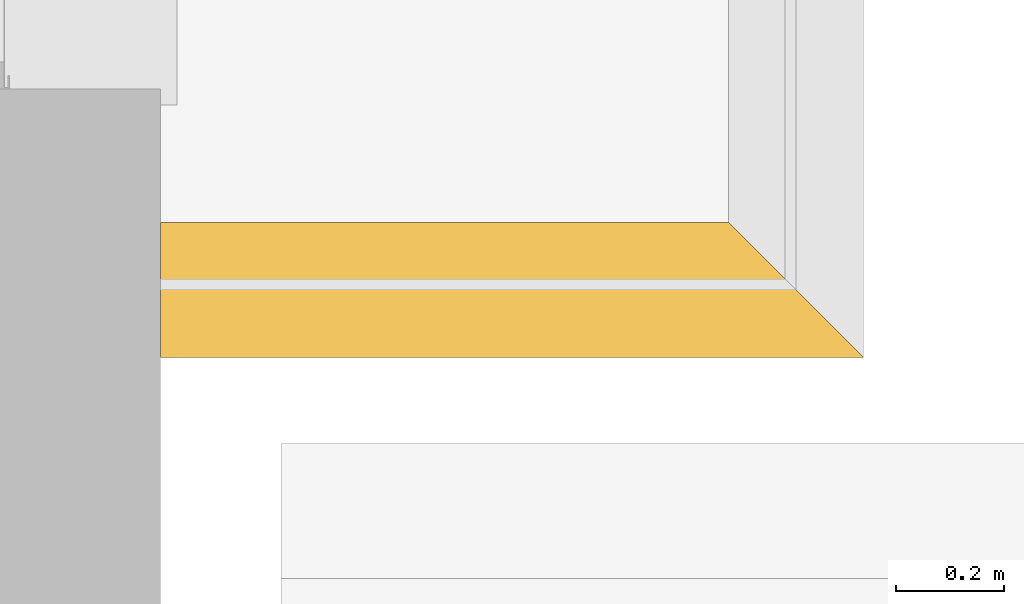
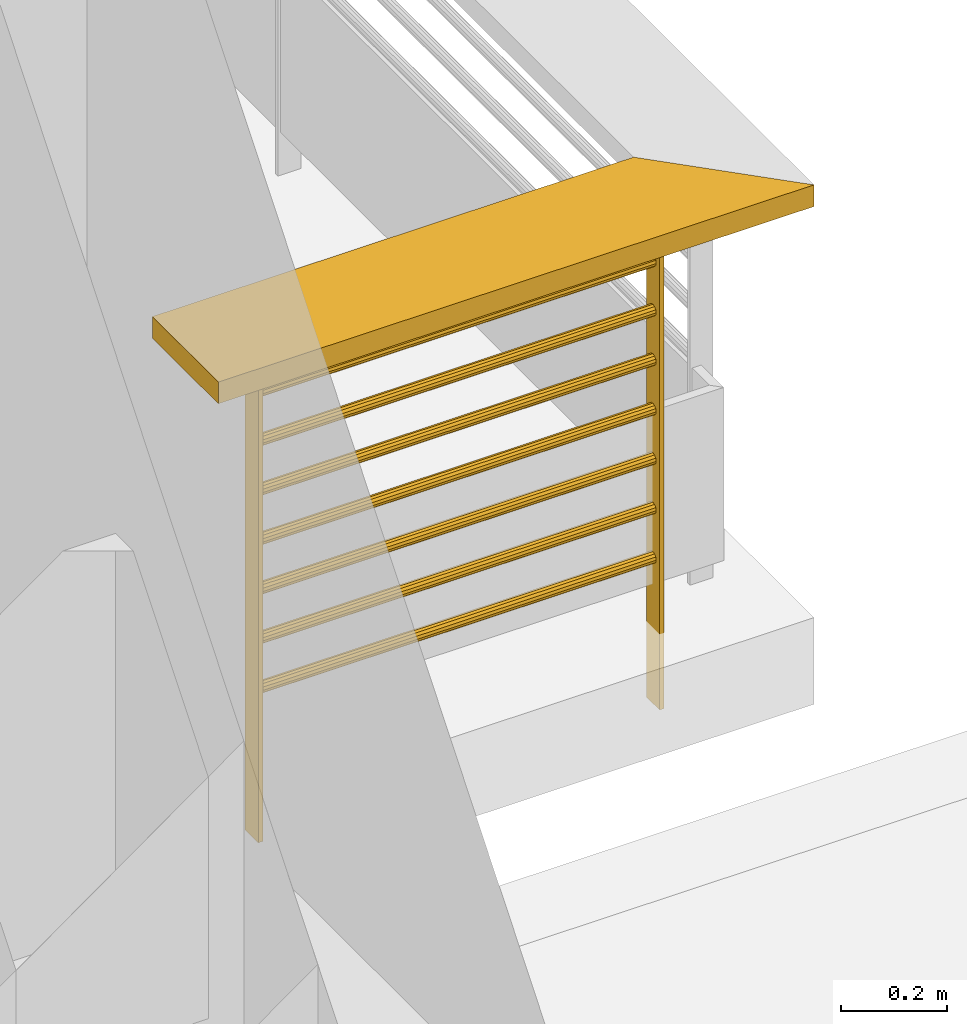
# One storey, part 95 of 164: 1 railing.
"""IFC2X3 building model written with IfcOpenShell, lengths in millimetres."""

from ifc_helpers import new_model, entity, si_unit, converted_unit, derived_unit, money_unit, direction, frame, origin_with_axes, place, context, subcontext, project, spatial, faceted_brep, source, transform, mapped, type_object, element, save


model = new_model("IFC2X3")

# Units and contexts
model_context = context("Model", 3, precision=0.01, world=origin_with_axes(), true_north=direction((0.0, 1.0)))
body_context = subcontext(model_context, "Body", "Model", "MODEL_VIEW")
ifc_project = project(units=[si_unit("LENGTHUNIT", "METRE", prefix="MILLI"), si_unit("AREAUNIT", "SQUARE_METRE"), si_unit("VOLUMEUNIT", "CUBIC_METRE"), converted_unit("PLANEANGLEUNIT", "DEGREE", entity("IfcPlaneAngleMeasure", 0.0174532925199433), si_unit("PLANEANGLEUNIT", "RADIAN"), dimensions=[0, 0, 0, 0, 0, 0, 0]), money_unit("USD"), converted_unit("TIMEUNIT", "Year", entity("IfcTimeMeasure", 31557600.0), si_unit("TIMEUNIT", "SECOND"), dimensions=[0, 0, 1, 0, 0, 0, 0]), si_unit("MASSUNIT", "GRAM", prefix="KILO"), si_unit("THERMODYNAMICTEMPERATUREUNIT", "DEGREE_CELSIUS"), si_unit("LUMINOUSINTENSITYUNIT", "LUMEN"), si_unit("ENERGYUNIT", "JOULE", prefix="MEGA"), derived_unit("THERMALCONDUCTANCEUNIT", [(si_unit("POWERUNIT", "WATT"), 1), (si_unit("LENGTHUNIT", "METRE"), -1), (si_unit("THERMODYNAMICTEMPERATUREUNIT", "KELVIN"), -1)]), derived_unit("SPECIFICHEATCAPACITYUNIT", [(si_unit("ENERGYUNIT", "JOULE"), 1), (si_unit("MASSUNIT", "GRAM", prefix="KILO"), -1), (si_unit("THERMODYNAMICTEMPERATUREUNIT", "KELVIN"), -1)]), derived_unit("MASSDENSITYUNIT", [(si_unit("MASSUNIT", "GRAM", prefix="KILO"), 1), (si_unit("VOLUMEUNIT", "CUBIC_METRE"), -1)])], contexts=[model_context])

# Site, building, storey
site_placement = place(None, origin_with_axes())
site = spatial("IfcSite", under=ifc_project, at=site_placement, Name="Site", CompositionType="ELEMENT")
building_placement = place(site_placement, origin_with_axes())
building = spatial("IfcBuilding", under=site, at=building_placement, Name="Bâtiment", CompositionType="ELEMENT")
storey_placement = place(building_placement, frame((0.0, 0.0, 5750.0), z_axis=(0.0, 0.0, 1.0), x_axis=(1.0, 0.0, 0.0)))
storey = spatial("IfcBuildingStorey", under=building, at=storey_placement, Name="Etage1", CompositionType="ELEMENT", Elevation=5750.0)

# Railing
railing_type = type_object("IfcRailingType", Name="Cadre avec câble 01 20", PredefinedType="NOTDEFINED")
shared_shape = source(origin_with_axes(), body_context, "Body", "Brep", [
    faceted_brep([(0.0, -125.0, 950.0), (0.0, 125.0, 950.0), (1051.913020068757, 125.0, 950.0), (1301.91302006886, -125.0, 950.0), (0.0, -125.0, 1000.0), (0.0, 125.0, 1000.0), (1051.913020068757, 125.0, 1000.0), (1301.91302006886, -125.0, 1000.0)], [[[0, 1, 2, 3]], [[1, 0, 4, 5]], [[2, 1, 5, 6]], [[2, 6, 7, 3]], [[0, 3, 7, 4]], [[5, 4, 7, 6]]]),
    faceted_brep([(145.0, -25.0, -176.0), (155.0, -25.0, -176.0), (155.0, -25.0, 950.0), (145.0, -25.0, 950.0), (145.0, 25.0, -176.0), (155.0, 25.0, -176.0), (155.0, 25.0, 950.0), (145.0, 25.0, 950.0)], [[[0, 1, 2, 3]], [[0, 4, 5, 1]], [[1, 5, 6, 2]], [[3, 2, 6, 7]], [[4, 0, 3, 7]], [[5, 4, 7, 6]]]),
    faceted_brep([(1021.913020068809, -25.0, -176.0), (1031.913020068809, -25.0, -176.0), (1031.913020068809, -25.0, 950.0), (1021.913020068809, -25.0, 950.0), (1021.913020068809, 25.0, -176.0), (1031.913020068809, 25.0, -176.0), (1031.913020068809, 25.0, 950.0), (1021.913020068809, 25.0, 950.0)], [[[0, 1, 2, 3]], [[0, 4, 5, 1]], [[1, 5, 6, 2]], [[3, 2, 6, 7]], [[4, 0, 3, 7]], [[5, 4, 7, 6]]]),
    faceted_brep([(155.0, 10.82531754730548, 156.25), (155.0, 12.5, 162.5), (1021.913020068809, 12.5, 162.5000000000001), (1021.913020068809, 10.82531754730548, 156.2500000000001), (155.0, 10.82531754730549, 168.75), (155.0, 6.249999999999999, 151.6746824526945), (155.0, 0.0, 150.0), (155.0, -6.250000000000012, 151.6746824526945), (155.0, -10.82531754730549, 156.25), (155.0, -12.5, 162.5), (155.0, -10.82531754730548, 168.75), (155.0, -6.249999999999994, 173.3253175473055), (155.0, 0.0, 175.0), (155.0, 6.250000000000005, 173.3253175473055), (1021.913020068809, 10.82531754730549, 168.7500000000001), (1021.913020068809, 6.250000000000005, 173.3253175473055), (1021.913020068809, 0.0, 175.0000000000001), (1021.913020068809, -6.249999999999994, 173.3253175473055), (1021.913020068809, -10.82531754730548, 168.7500000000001), (1021.913020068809, -12.5, 162.5000000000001), (1021.913020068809, -10.82531754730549, 156.2500000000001), (1021.913020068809, -6.250000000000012, 151.6746824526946), (1021.913020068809, 0.0, 150.0000000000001), (1021.913020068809, 6.249999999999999, 151.6746824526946)], [[[0, 1, 2, 3]], [[4, 1, 0, 5, 6, 7, 8, 9, 10, 11, 12, 13]], [[1, 4, 14, 2]], [[3, 2, 14, 15, 16, 17, 18, 19, 20, 21, 22, 23]], [[5, 0, 3, 23]], [[6, 5, 23, 22]], [[7, 6, 22, 21]], [[8, 7, 21, 20]], [[9, 8, 20, 19]], [[10, 9, 19, 18]], [[11, 10, 18, 17]], [[12, 11, 17, 16]], [[13, 12, 16, 15]], [[4, 13, 15, 14]]]),
    faceted_brep([(155.0, 10.82531754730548, 270.5357142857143), (155.0, 12.5, 276.7857142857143), (1021.913020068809, 12.5, 276.7857142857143), (1021.913020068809, 10.82531754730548, 270.5357142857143), (155.0, 10.82531754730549, 283.0357142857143), (155.0, 6.249999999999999, 265.9603967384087), (155.0, 0.0, 264.2857142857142), (155.0, -6.250000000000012, 265.9603967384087), (155.0, -10.82531754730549, 270.5357142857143), (155.0, -12.5, 276.7857142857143), (155.0, -10.82531754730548, 283.0357142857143), (155.0, -6.249999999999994, 287.6110318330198), (155.0, 0.0, 289.2857142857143), (155.0, 6.250000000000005, 287.6110318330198), (1021.913020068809, 10.82531754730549, 283.0357142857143), (1021.913020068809, 6.250000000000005, 287.6110318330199), (1021.913020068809, 0.0, 289.2857142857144), (1021.913020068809, -6.249999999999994, 287.6110318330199), (1021.913020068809, -10.82531754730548, 283.0357142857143), (1021.913020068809, -12.5, 276.7857142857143), (1021.913020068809, -10.82531754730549, 270.5357142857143), (1021.913020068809, -6.250000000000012, 265.9603967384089), (1021.913020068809, 0.0, 264.2857142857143), (1021.913020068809, 6.249999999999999, 265.9603967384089)], [[[0, 1, 2, 3]], [[4, 1, 0, 5, 6, 7, 8, 9, 10, 11, 12, 13]], [[1, 4, 14, 2]], [[3, 2, 14, 15, 16, 17, 18, 19, 20, 21, 22, 23]], [[5, 0, 3, 23]], [[6, 5, 23, 22]], [[7, 6, 22, 21]], [[8, 7, 21, 20]], [[9, 8, 20, 19]], [[10, 9, 19, 18]], [[11, 10, 18, 17]], [[12, 11, 17, 16]], [[13, 12, 16, 15]], [[4, 13, 15, 14]]]),
    faceted_brep([(155.0, 10.82531754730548, 384.8214285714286), (155.0, 12.5, 391.0714285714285), (1021.913020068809, 12.5, 391.0714285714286), (1021.913020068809, 10.82531754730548, 384.8214285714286), (155.0, 10.82531754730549, 397.3214285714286), (155.0, 6.249999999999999, 380.2461110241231), (155.0, 0.0, 378.5714285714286), (155.0, -6.250000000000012, 380.2461110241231), (155.0, -10.82531754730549, 384.8214285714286), (155.0, -12.5, 391.0714285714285), (155.0, -10.82531754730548, 397.3214285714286), (155.0, -6.249999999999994, 401.896746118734), (155.0, 0.0, 403.5714285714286), (155.0, 6.250000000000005, 401.896746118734), (1021.913020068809, 10.82531754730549, 397.3214285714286), (1021.913020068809, 6.250000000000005, 401.896746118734), (1021.913020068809, 0.0, 403.5714285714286), (1021.913020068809, -6.249999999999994, 401.896746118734), (1021.913020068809, -10.82531754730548, 397.3214285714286), (1021.913020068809, -12.5, 391.0714285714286), (1021.913020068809, -10.82531754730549, 384.8214285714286), (1021.913020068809, -6.250000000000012, 380.2461110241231), (1021.913020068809, 0.0, 378.5714285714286), (1021.913020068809, 6.249999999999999, 380.2461110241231)], [[[0, 1, 2, 3]], [[4, 1, 0, 5, 6, 7, 8, 9, 10, 11, 12, 13]], [[1, 4, 14, 2]], [[3, 2, 14, 15, 16, 17, 18, 19, 20, 21, 22, 23]], [[5, 0, 3, 23]], [[6, 5, 23, 22]], [[7, 6, 22, 21]], [[8, 7, 21, 20]], [[9, 8, 20, 19]], [[10, 9, 19, 18]], [[11, 10, 18, 17]], [[12, 11, 17, 16]], [[13, 12, 16, 15]], [[4, 13, 15, 14]]]),
    faceted_brep([(155.0, 10.82531754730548, 499.1071428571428), (155.0, 12.5, 505.3571428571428), (1021.913020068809, 12.5, 505.3571428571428), (1021.913020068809, 10.82531754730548, 499.1071428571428), (155.0, 10.82531754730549, 511.6071428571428), (155.0, 6.249999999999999, 494.5318253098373), (155.0, 0.0, 492.8571428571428), (155.0, -6.250000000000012, 494.5318253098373), (155.0, -10.82531754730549, 499.1071428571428), (155.0, -12.5, 505.3571428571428), (155.0, -10.82531754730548, 511.6071428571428), (155.0, -6.249999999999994, 516.1824604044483), (155.0, 0.0, 517.8571428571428), (155.0, 6.250000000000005, 516.1824604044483), (1021.913020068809, 10.82531754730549, 511.6071428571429), (1021.913020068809, 6.250000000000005, 516.1824604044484), (1021.913020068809, 0.0, 517.8571428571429), (1021.913020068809, -6.249999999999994, 516.1824604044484), (1021.913020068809, -10.82531754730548, 511.6071428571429), (1021.913020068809, -12.5, 505.3571428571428), (1021.913020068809, -10.82531754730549, 499.1071428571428), (1021.913020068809, -6.250000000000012, 494.5318253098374), (1021.913020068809, 0.0, 492.8571428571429), (1021.913020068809, 6.249999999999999, 494.5318253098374)], [[[0, 1, 2, 3]], [[4, 1, 0, 5, 6, 7, 8, 9, 10, 11, 12, 13]], [[1, 4, 14, 2]], [[3, 2, 14, 15, 16, 17, 18, 19, 20, 21, 22, 23]], [[5, 0, 3, 23]], [[6, 5, 23, 22]], [[7, 6, 22, 21]], [[8, 7, 21, 20]], [[9, 8, 20, 19]], [[10, 9, 19, 18]], [[11, 10, 18, 17]], [[12, 11, 17, 16]], [[13, 12, 16, 15]], [[4, 13, 15, 14]]]),
    faceted_brep([(155.0, 10.82531754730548, 613.3928571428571), (155.0, 12.5, 619.642857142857), (1021.913020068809, 12.5, 619.6428571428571), (1021.913020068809, 10.82531754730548, 613.3928571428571), (155.0, 10.82531754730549, 625.892857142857), (155.0, 6.249999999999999, 608.8175395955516), (155.0, 0.0, 607.1428571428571), (155.0, -6.250000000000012, 608.8175395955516), (155.0, -10.82531754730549, 613.3928571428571), (155.0, -12.5, 619.642857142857), (155.0, -10.82531754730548, 625.892857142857), (155.0, -6.249999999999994, 630.4681746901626), (155.0, 0.0, 632.1428571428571), (155.0, 6.250000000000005, 630.4681746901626), (1021.913020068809, 10.82531754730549, 625.8928571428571), (1021.913020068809, 6.250000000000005, 630.4681746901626), (1021.913020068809, 0.0, 632.1428571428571), (1021.913020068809, -6.249999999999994, 630.4681746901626), (1021.913020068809, -10.82531754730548, 625.8928571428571), (1021.913020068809, -12.5, 619.6428571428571), (1021.913020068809, -10.82531754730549, 613.3928571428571), (1021.913020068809, -6.250000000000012, 608.8175395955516), (1021.913020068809, 0.0, 607.1428571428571), (1021.913020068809, 6.249999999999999, 608.8175395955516)], [[[0, 1, 2, 3]], [[4, 1, 0, 5, 6, 7, 8, 9, 10, 11, 12, 13]], [[1, 4, 14, 2]], [[3, 2, 14, 15, 16, 17, 18, 19, 20, 21, 22, 23]], [[5, 0, 3, 23]], [[6, 5, 23, 22]], [[7, 6, 22, 21]], [[8, 7, 21, 20]], [[9, 8, 20, 19]], [[10, 9, 19, 18]], [[11, 10, 18, 17]], [[12, 11, 17, 16]], [[13, 12, 16, 15]], [[4, 13, 15, 14]]]),
    faceted_brep([(155.0, 10.82531754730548, 727.6785714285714), (155.0, 12.5, 733.9285714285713), (1021.913020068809, 12.5, 733.9285714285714), (1021.913020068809, 10.82531754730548, 727.6785714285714), (155.0, 10.82531754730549, 740.1785714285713), (155.0, 6.249999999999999, 723.1032538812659), (155.0, 0.0, 721.4285714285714), (155.0, -6.250000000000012, 723.1032538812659), (155.0, -10.82531754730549, 727.6785714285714), (155.0, -12.5, 733.9285714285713), (155.0, -10.82531754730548, 740.1785714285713), (155.0, -6.249999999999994, 744.7538889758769), (155.0, 0.0, 746.4285714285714), (155.0, 6.250000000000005, 744.7538889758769), (1021.913020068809, 10.82531754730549, 740.1785714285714), (1021.913020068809, 6.250000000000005, 744.7538889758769), (1021.913020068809, 0.0, 746.4285714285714), (1021.913020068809, -6.249999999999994, 744.7538889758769), (1021.913020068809, -10.82531754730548, 740.1785714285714), (1021.913020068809, -12.5, 733.9285714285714), (1021.913020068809, -10.82531754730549, 727.6785714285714), (1021.913020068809, -6.250000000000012, 723.1032538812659), (1021.913020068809, 0.0, 721.4285714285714), (1021.913020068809, 6.249999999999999, 723.1032538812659)], [[[0, 1, 2, 3]], [[4, 1, 0, 5, 6, 7, 8, 9, 10, 11, 12, 13]], [[1, 4, 14, 2]], [[3, 2, 14, 15, 16, 17, 18, 19, 20, 21, 22, 23]], [[5, 0, 3, 23]], [[6, 5, 23, 22]], [[7, 6, 22, 21]], [[8, 7, 21, 20]], [[9, 8, 20, 19]], [[10, 9, 19, 18]], [[11, 10, 18, 17]], [[12, 11, 17, 16]], [[13, 12, 16, 15]], [[4, 13, 15, 14]]]),
    faceted_brep([(155.0, 10.82531754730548, 841.9642857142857), (155.0, 12.5, 848.2142857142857), (1021.913020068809, 12.5, 848.2142857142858), (1021.913020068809, 10.82531754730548, 841.9642857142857), (155.0, 10.82531754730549, 854.4642857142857), (155.0, 6.249999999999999, 837.3889681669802), (155.0, 0.0, 835.7142857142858), (155.0, -6.250000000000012, 837.3889681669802), (155.0, -10.82531754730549, 841.9642857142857), (155.0, -12.5, 848.2142857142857), (155.0, -10.82531754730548, 854.4642857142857), (155.0, -6.249999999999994, 859.0396032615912), (155.0, 0.0, 860.7142857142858), (155.0, 6.250000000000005, 859.0396032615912), (1021.913020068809, 10.82531754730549, 854.4642857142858), (1021.913020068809, 6.250000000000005, 859.0396032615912), (1021.913020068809, 0.0, 860.7142857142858), (1021.913020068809, -6.249999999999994, 859.0396032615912), (1021.913020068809, -10.82531754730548, 854.4642857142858), (1021.913020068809, -12.5, 848.2142857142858), (1021.913020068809, -10.82531754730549, 841.9642857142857), (1021.913020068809, -6.250000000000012, 837.3889681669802), (1021.913020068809, 0.0, 835.7142857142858), (1021.913020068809, 6.249999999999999, 837.3889681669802)], [[[0, 1, 2, 3]], [[4, 1, 0, 5, 6, 7, 8, 9, 10, 11, 12, 13]], [[1, 4, 14, 2]], [[3, 2, 14, 15, 16, 17, 18, 19, 20, 21, 22, 23]], [[5, 0, 3, 23]], [[6, 5, 23, 22]], [[7, 6, 22, 21]], [[8, 7, 21, 20]], [[9, 8, 20, 19]], [[10, 9, 19, 18]], [[11, 10, 18, 17]], [[12, 11, 17, 16]], [[13, 12, 16, 15]], [[4, 13, 15, 14]]]),
])
railing_placement = place(storey_placement, frame((2229653.476036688, -631523.3549005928, 0.0), z_axis=(0.0, 0.0, 1.0), x_axis=(1.0, 0.0, 0.0)))
element("IfcRailing", 1, at=railing_placement, inside=storey, type_object=railing_type, Name="Obj.-002", PredefinedType="NOTDEFINED", context=body_context, shape_type="MappedRepresentation", body=[
    mapped(shared_shape, transform((0.0, 0.0, 0.0))),
])

save(model, "model.ifc")
